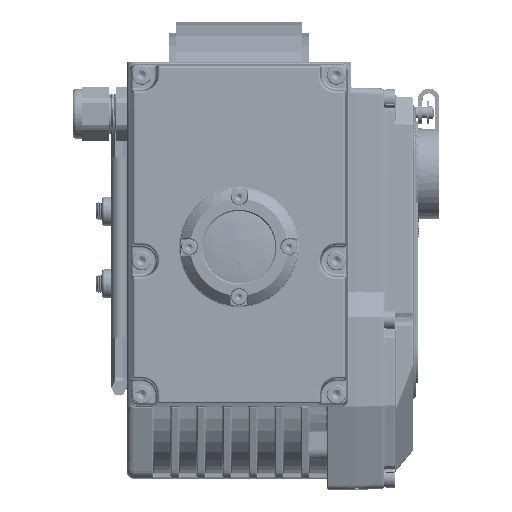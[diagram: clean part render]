
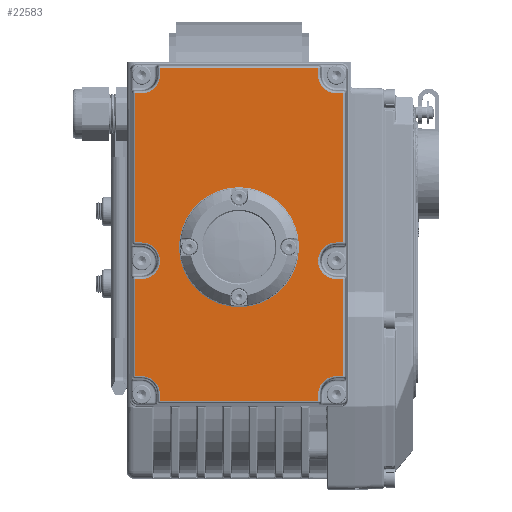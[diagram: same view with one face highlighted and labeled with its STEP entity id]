
A CAD part, top view. The second image highlights one B-rep face of the part: STEP entity #22583.
In plain terms, the highlighted planar face has unit normal (0, 0, 1).
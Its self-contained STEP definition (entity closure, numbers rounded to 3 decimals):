
#22583=ADVANCED_FACE('',(#99231,#99233),#99235,.T.);
#99231=FACE_BOUND('',#99232,.T.);
#99232=EDGE_LOOP('',(#177105,#177106,#177107,#177108,#177109,#177110,#177111,#177112,
#177113,#177114,#177115,#177116,#177117,#177118,#177119,#177120,#177121,#177122,
#177123,#177124,#177125,#177126,#177127,#177128));
#99233=FACE_BOUND('',#99234,.T.);
#99234=EDGE_LOOP('',(#177129));
#99235=PLANE('',#99236);
#99236=AXIS2_PLACEMENT_3D('',#99237,#99238,#99239);
#99237=CARTESIAN_POINT('',(-864.908,-764.932,263.019));
#99238=DIRECTION('',(0.,0.,1.));
#99239=DIRECTION('',(-1.,0.,0.));
#177105=ORIENTED_EDGE('',*,*,#240992,.T.);
#177106=ORIENTED_EDGE('',*,*,#240993,.T.);
#177107=ORIENTED_EDGE('',*,*,#240994,.T.);
#177108=ORIENTED_EDGE('',*,*,#240995,.T.);
#177109=ORIENTED_EDGE('',*,*,#240996,.T.);
#177110=ORIENTED_EDGE('',*,*,#240997,.T.);
#177111=ORIENTED_EDGE('',*,*,#240998,.T.);
#177112=ORIENTED_EDGE('',*,*,#240999,.T.);
#177113=ORIENTED_EDGE('',*,*,#241000,.T.);
#177114=ORIENTED_EDGE('',*,*,#241001,.T.);
#177115=ORIENTED_EDGE('',*,*,#241002,.T.);
#177116=ORIENTED_EDGE('',*,*,#241003,.T.);
#177117=ORIENTED_EDGE('',*,*,#241004,.T.);
#177118=ORIENTED_EDGE('',*,*,#241005,.T.);
#177119=ORIENTED_EDGE('',*,*,#241006,.T.);
#177120=ORIENTED_EDGE('',*,*,#241007,.T.);
#177121=ORIENTED_EDGE('',*,*,#241008,.T.);
#177122=ORIENTED_EDGE('',*,*,#241009,.T.);
#177123=ORIENTED_EDGE('',*,*,#241010,.T.);
#177124=ORIENTED_EDGE('',*,*,#241011,.T.);
#177125=ORIENTED_EDGE('',*,*,#241012,.T.);
#177126=ORIENTED_EDGE('',*,*,#241013,.T.);
#177127=ORIENTED_EDGE('',*,*,#240893,.T.);
#177128=ORIENTED_EDGE('',*,*,#241014,.T.);
#177129=ORIENTED_EDGE('',*,*,#241015,.T.);
#240893=EDGE_CURVE('',#269205,#269207,#269209,.T.);
#240992=EDGE_CURVE('',#269381,#269382,#269383,.T.);
#240993=EDGE_CURVE('',#269382,#269384,#269385,.T.);
#240994=EDGE_CURVE('',#269384,#269386,#269387,.T.);
#240995=EDGE_CURVE('',#269386,#269388,#269389,.T.);
#240996=EDGE_CURVE('',#269388,#269390,#269391,.T.);
#240997=EDGE_CURVE('',#269390,#269392,#269393,.T.);
#240998=EDGE_CURVE('',#269392,#269394,#269395,.T.);
#240999=EDGE_CURVE('',#269394,#269396,#269397,.T.);
#241000=EDGE_CURVE('',#269396,#269398,#269399,.T.);
#241001=EDGE_CURVE('',#269398,#269400,#269401,.T.);
#241002=EDGE_CURVE('',#269400,#269402,#269403,.T.);
#241003=EDGE_CURVE('',#269402,#269404,#269405,.T.);
#241004=EDGE_CURVE('',#269404,#269406,#269407,.T.);
#241005=EDGE_CURVE('',#269406,#269408,#269409,.T.);
#241006=EDGE_CURVE('',#269408,#269410,#269411,.T.);
#241007=EDGE_CURVE('',#269410,#269412,#269413,.T.);
#241008=EDGE_CURVE('',#269412,#269414,#269415,.T.);
#241009=EDGE_CURVE('',#269414,#269416,#269417,.T.);
#241010=EDGE_CURVE('',#269416,#269418,#269419,.T.);
#241011=EDGE_CURVE('',#269418,#269420,#269421,.T.);
#241012=EDGE_CURVE('',#269420,#269422,#269423,.T.);
#241013=EDGE_CURVE('',#269422,#269205,#269424,.T.);
#241014=EDGE_CURVE('',#269207,#269381,#269425,.T.);
#241015=EDGE_CURVE('',#269426,#269426,#269427,.T.);
#269205=VERTEX_POINT('',#389452);
#269207=VERTEX_POINT('',#389457);
#269209=LINE('',#389462,#389463);
#269381=VERTEX_POINT('',#390228);
#269382=VERTEX_POINT('',#390229);
#269383=CIRCLE('',#390230,8.092);
#269384=VERTEX_POINT('',#390234);
#269385=LINE('',#390235,#390236);
#269386=VERTEX_POINT('',#390238);
#269387=LINE('',#390239,#390240);
#269388=VERTEX_POINT('',#390242);
#269389=LINE('',#390243,#390244);
#269390=VERTEX_POINT('',#390246);
#269391=CIRCLE('',#390247,8.092);
#269392=VERTEX_POINT('',#390251);
#269393=LINE('',#390252,#390253);
#269394=VERTEX_POINT('',#390255);
#269395=LINE('',#390256,#390257);
#269396=VERTEX_POINT('',#390259);
#269397=LINE('',#390260,#390261);
#269398=VERTEX_POINT('',#390263);
#269399=CIRCLE('',#390264,8.092);
#269400=VERTEX_POINT('',#390268);
#269401=LINE('',#390269,#390270);
#269402=VERTEX_POINT('',#390272);
#269403=LINE('',#390273,#390274);
#269404=VERTEX_POINT('',#390276);
#269405=LINE('',#390277,#390278);
#269406=VERTEX_POINT('',#390280);
#269407=CIRCLE('',#390281,8.092);
#269408=VERTEX_POINT('',#390285);
#269409=LINE('',#390286,#390287);
#269410=VERTEX_POINT('',#390289);
#269411=LINE('',#390290,#390291);
#269412=VERTEX_POINT('',#390293);
#269413=LINE('',#390294,#390295);
#269414=VERTEX_POINT('',#390297);
#269415=CIRCLE('',#390298,8.092);
#269416=VERTEX_POINT('',#390302);
#269417=LINE('',#390303,#390304);
#269418=VERTEX_POINT('',#390306);
#269419=LINE('',#390307,#390308);
#269420=VERTEX_POINT('',#390310);
#269421=LINE('',#390311,#390312);
#269422=VERTEX_POINT('',#390314);
#269423=CIRCLE('',#390315,8.092);
#269424=LINE('',#390319,#390320);
#269425=LINE('',#390322,#390323);
#269426=VERTEX_POINT('',#390325);
#269427=CIRCLE('',#390326,26.5);
#389452=CARTESIAN_POINT('',(-785.001,-619.024,263.019));
#389457=CARTESIAN_POINT('',(-854.816,-619.024,263.019));
#389462=CARTESIAN_POINT('',(-785.001,-619.024,263.019));
#389463=VECTOR('',#389464,1.);
#389464=DIRECTION('',(-1.,0.,0.));
#390228=CARTESIAN_POINT('',(-854.816,-621.932,263.019));
#390229=CARTESIAN_POINT('',(-862.908,-630.024,263.019));
#390230=AXIS2_PLACEMENT_3D('',#390231,#390232,#390233);
#390231=CARTESIAN_POINT('',(-862.908,-621.932,263.019));
#390232=DIRECTION('',(0.,0.,-1.));
#390233=DIRECTION('',(1.,0.,0.));
#390234=CARTESIAN_POINT('',(-865.816,-630.024,263.019));
#390235=CARTESIAN_POINT('',(-862.908,-630.024,263.019));
#390236=VECTOR('',#390237,1.);
#390237=DIRECTION('',(-1.,0.,0.));
#390238=CARTESIAN_POINT('',(-865.816,-695.839,263.019));
#390239=CARTESIAN_POINT('',(-865.816,-630.024,263.019));
#390240=VECTOR('',#390241,1.);
#390241=DIRECTION('',(0.,-1.,0.));
#390242=CARTESIAN_POINT('',(-862.908,-695.839,263.019));
#390243=CARTESIAN_POINT('',(-865.816,-695.839,263.019));
#390244=VECTOR('',#390245,1.);
#390245=DIRECTION('',(1.,0.,0.));
#390246=CARTESIAN_POINT('',(-862.908,-712.024,263.019));
#390247=AXIS2_PLACEMENT_3D('',#390248,#390249,#390250);
#390248=CARTESIAN_POINT('',(-862.908,-703.932,263.019));
#390249=DIRECTION('',(0.,0.,-1.));
#390250=DIRECTION('',(0.,1.,0.));
#390251=CARTESIAN_POINT('',(-865.816,-712.024,263.019));
#390252=CARTESIAN_POINT('',(-862.908,-712.024,263.019));
#390253=VECTOR('',#390254,1.);
#390254=DIRECTION('',(-1.,0.,0.));
#390255=CARTESIAN_POINT('',(-865.816,-754.839,263.019));
#390256=CARTESIAN_POINT('',(-865.816,-712.024,263.019));
#390257=VECTOR('',#390258,1.);
#390258=DIRECTION('',(0.,-1.,0.));
#390259=CARTESIAN_POINT('',(-862.908,-754.839,263.019));
#390260=CARTESIAN_POINT('',(-865.816,-754.839,263.019));
#390261=VECTOR('',#390262,1.);
#390262=DIRECTION('',(1.,0.,0.));
#390263=CARTESIAN_POINT('',(-854.816,-762.932,263.019));
#390264=AXIS2_PLACEMENT_3D('',#390265,#390266,#390267);
#390265=CARTESIAN_POINT('',(-862.908,-762.932,263.019));
#390266=DIRECTION('',(0.,0.,-1.));
#390267=DIRECTION('',(0.,1.,0.));
#390268=CARTESIAN_POINT('',(-854.816,-765.839,263.019));
#390269=CARTESIAN_POINT('',(-854.816,-762.932,263.019));
#390270=VECTOR('',#390271,1.);
#390271=DIRECTION('',(0.,-1.,0.));
#390272=CARTESIAN_POINT('',(-785.001,-765.839,263.019));
#390273=CARTESIAN_POINT('',(-854.816,-765.839,263.019));
#390274=VECTOR('',#390275,1.);
#390275=DIRECTION('',(1.,0.,0.));
#390276=CARTESIAN_POINT('',(-785.001,-762.932,263.019));
#390277=CARTESIAN_POINT('',(-785.001,-765.839,263.019));
#390278=VECTOR('',#390279,1.);
#390279=DIRECTION('',(0.,1.,0.));
#390280=CARTESIAN_POINT('',(-776.908,-754.839,263.019));
#390281=AXIS2_PLACEMENT_3D('',#390282,#390283,#390284);
#390282=CARTESIAN_POINT('',(-776.908,-762.932,263.019));
#390283=DIRECTION('',(0.,0.,-1.));
#390284=DIRECTION('',(-1.,0.,0.));
#390285=CARTESIAN_POINT('',(-774.001,-754.839,263.019));
#390286=CARTESIAN_POINT('',(-776.908,-754.839,263.019));
#390287=VECTOR('',#390288,1.);
#390288=DIRECTION('',(1.,0.,0.));
#390289=CARTESIAN_POINT('',(-774.001,-712.024,263.019));
#390290=CARTESIAN_POINT('',(-774.001,-754.839,263.019));
#390291=VECTOR('',#390292,1.);
#390292=DIRECTION('',(0.,1.,0.));
#390293=CARTESIAN_POINT('',(-776.908,-712.024,263.019));
#390294=CARTESIAN_POINT('',(-774.001,-712.024,263.019));
#390295=VECTOR('',#390296,1.);
#390296=DIRECTION('',(-1.,0.,0.));
#390297=CARTESIAN_POINT('',(-776.908,-695.839,263.019));
#390298=AXIS2_PLACEMENT_3D('',#390299,#390300,#390301);
#390299=CARTESIAN_POINT('',(-776.908,-703.932,263.019));
#390300=DIRECTION('',(0.,0.,-1.));
#390301=DIRECTION('',(0.,-1.,0.));
#390302=CARTESIAN_POINT('',(-774.001,-695.839,263.019));
#390303=CARTESIAN_POINT('',(-776.908,-695.839,263.019));
#390304=VECTOR('',#390305,1.);
#390305=DIRECTION('',(1.,0.,0.));
#390306=CARTESIAN_POINT('',(-774.001,-630.024,263.019));
#390307=CARTESIAN_POINT('',(-774.001,-695.839,263.019));
#390308=VECTOR('',#390309,1.);
#390309=DIRECTION('',(0.,1.,0.));
#390310=CARTESIAN_POINT('',(-776.908,-630.024,263.019));
#390311=CARTESIAN_POINT('',(-774.001,-630.024,263.019));
#390312=VECTOR('',#390313,1.);
#390313=DIRECTION('',(-1.,0.,0.));
#390314=CARTESIAN_POINT('',(-785.001,-621.932,263.019));
#390315=AXIS2_PLACEMENT_3D('',#390316,#390317,#390318);
#390316=CARTESIAN_POINT('',(-776.908,-621.932,263.019));
#390317=DIRECTION('',(0.,0.,-1.));
#390318=DIRECTION('',(0.,-1.,0.));
#390319=CARTESIAN_POINT('',(-785.001,-621.932,263.019));
#390320=VECTOR('',#390321,1.);
#390321=DIRECTION('',(0.,1.,0.));
#390322=CARTESIAN_POINT('',(-854.816,-619.024,263.019));
#390323=VECTOR('',#390324,1.);
#390324=DIRECTION('',(0.,-1.,0.));
#390325=CARTESIAN_POINT('',(-846.408,-697.932,263.019));
#390326=AXIS2_PLACEMENT_3D('',#390327,#390328,#390329);
#390327=CARTESIAN_POINT('',(-819.908,-697.932,263.019));
#390328=DIRECTION('',(0.,0.,-1.));
#390329=DIRECTION('',(-1.,0.,0.));
